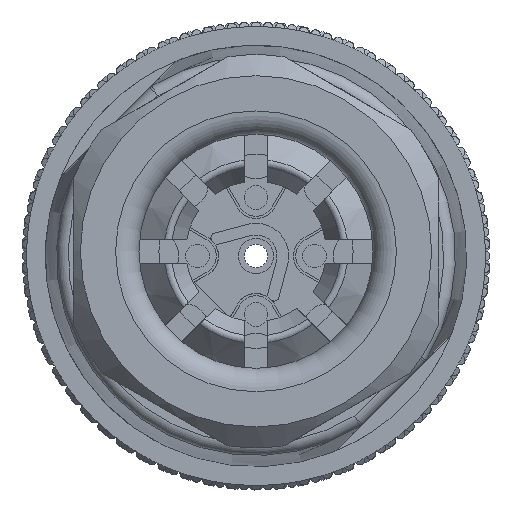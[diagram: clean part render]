
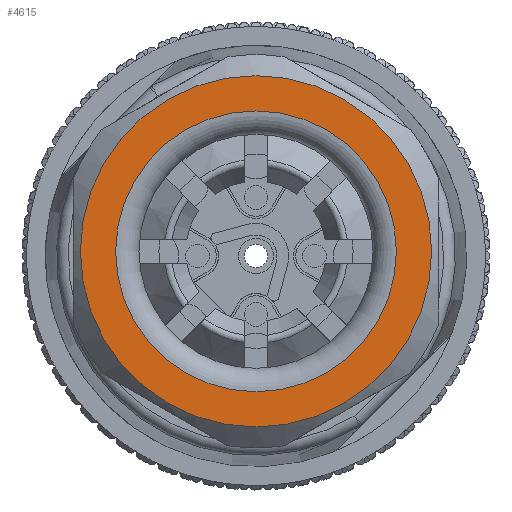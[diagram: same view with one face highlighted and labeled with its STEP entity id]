
A CAD part, front view. The second image highlights one B-rep face of the part: STEP entity #4615.
In plain terms, the highlighted planar face has unit normal (0, -1, 0).
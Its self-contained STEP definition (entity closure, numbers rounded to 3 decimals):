
#657=PLANE('',#21391);
#1026=FACE_BOUND('',#7522,.T.);
#1027=FACE_BOUND('',#7523,.T.);
#1361=CIRCLE('',#21389,6.);
#1362=CIRCLE('',#21390,7.507);
#4615=ADVANCED_FACE('',(#1026,#1027),#657,.F.);
#7522=EDGE_LOOP('',(#9088));
#7523=EDGE_LOOP('',(#9089));
#9088=ORIENTED_EDGE('',*,*,#17331,.T.);
#9089=ORIENTED_EDGE('',*,*,#17332,.T.);
#15353=VERTEX_POINT('',#31278);
#15354=VERTEX_POINT('',#31280);
#17331=EDGE_CURVE('',#15353,#15353,#1361,.T.);
#17332=EDGE_CURVE('',#15354,#15354,#1362,.T.);
#21389=AXIS2_PLACEMENT_3D('',#31277,#23830,#23831);
#21390=AXIS2_PLACEMENT_3D('',#31279,#23832,#23833);
#21391=AXIS2_PLACEMENT_3D('',#31281,#23834,#23835);
#23830=DIRECTION('',(0.,1.,0.));
#23831=DIRECTION('',(1.,0.,0.));
#23832=DIRECTION('',(0.,-1.,0.));
#23833=DIRECTION('',(-1.,0.,0.));
#23834=DIRECTION('',(0.,1.,0.));
#23835=DIRECTION('',(-1.,0.,0.));
#31277=CARTESIAN_POINT('',(0.,-52.975,0.2));
#31278=CARTESIAN_POINT('',(6.,-52.975,0.2));
#31279=CARTESIAN_POINT('',(0.,-52.975,0.2));
#31280=CARTESIAN_POINT('',(-7.507,-52.975,0.2));
#31281=CARTESIAN_POINT('',(0.,-52.975,0.2));
